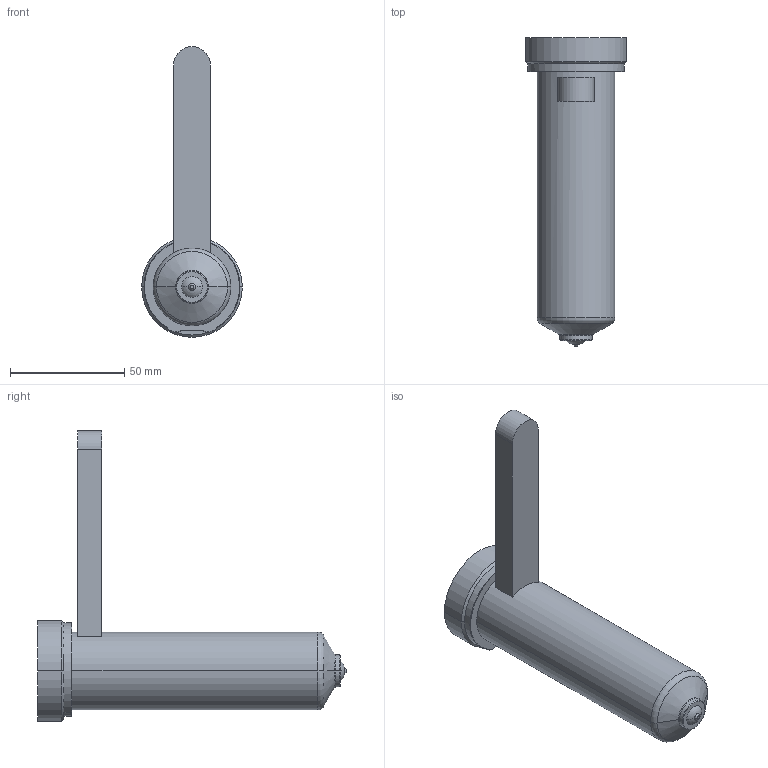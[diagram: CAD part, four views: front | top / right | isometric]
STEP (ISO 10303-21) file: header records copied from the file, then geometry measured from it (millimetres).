
FILE_DESCRIPTION((''),'2;1');
FILE_NAME('EO10_PG-BL_STD_120_COT','2024-02-19T11:08:55',('sundharh'),(''),'CREO PARAMETRIC BY PTC INC, 2023154','CREO PARAMETRIC BY PTC INC, 2023154','');
FILE_SCHEMA(('CONFIG_CONTROL_DESIGN'));
Length unit declared in the file: millimetre
Products named in the file (1): EO10_PG-BL_STD_120_COT
Bounding box: 44 x 135 x 127 mm (x, y, z)
Volume: 139139.3 mm3; surface area: 21453.4 mm2
Topology: 1 solids, 1 shells, 40 faces, 85 edges, 50 vertices
Faces by surface type: cylinder 13, plane 10, torus 9, cone 6, sphere 2
Entity records: 1193 total; most frequent: CARTESIAN_POINT 263, DIRECTION 209, ORIENTED_EDGE 170, AXIS2_PLACEMENT_3D 90, EDGE_CURVE 85, VERTEX_POINT 50, CIRCLE 50, EDGE_LOOP 43
